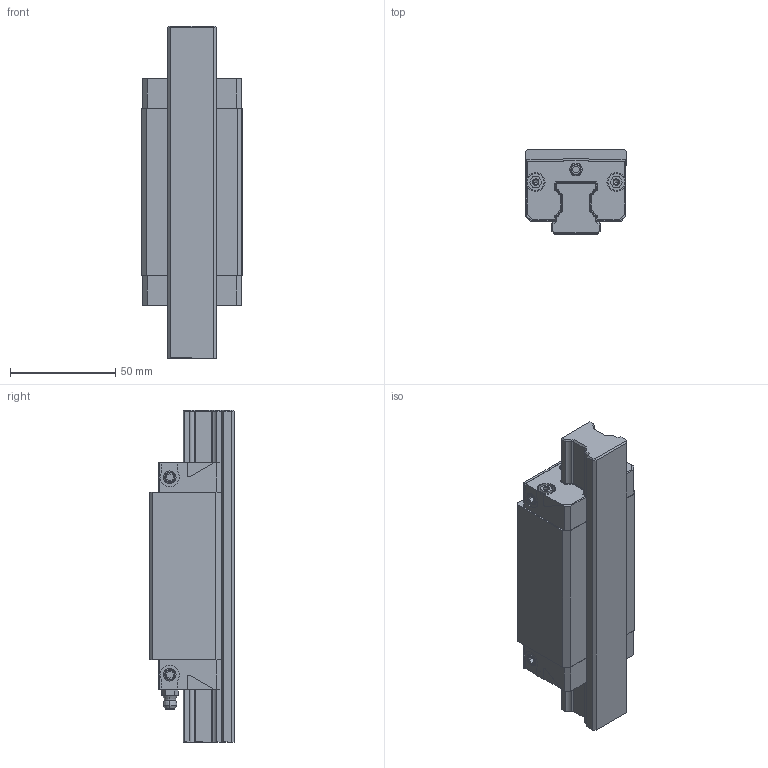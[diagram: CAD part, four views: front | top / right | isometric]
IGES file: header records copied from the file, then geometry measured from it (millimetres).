
Start section: 3D InterOp IGES (v. 2019 1.0.2), Spatial Corp. Copyright (c) 1999-2017.
Global section: file name: R1624_size25.igs; native system: Spatial Corp.; preprocessor: 3D InterOp GENERIC/IGES 3.0; author: Noname; organization: Noname; date: 20220629.124922; units: millimetre
Bounding box: 48 x 40 x 157.9 mm (x, y, z)
Surface area: 54743.1 mm2 (no closed solid volume)
Topology: 0 solids, 0 shells, 521 faces, 2748 edges, 2718 vertices
Faces by surface type: extrusion 292, revolution 229
